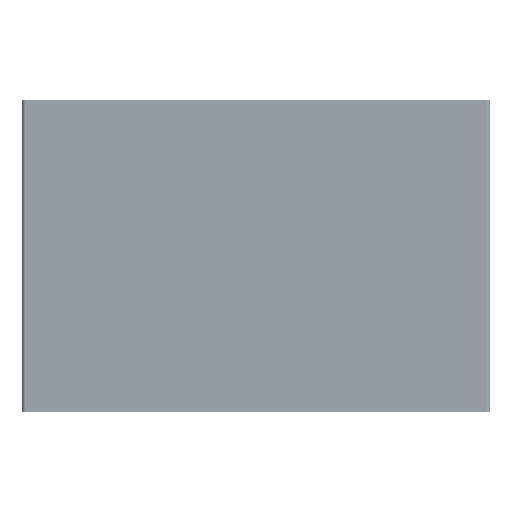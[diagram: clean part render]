
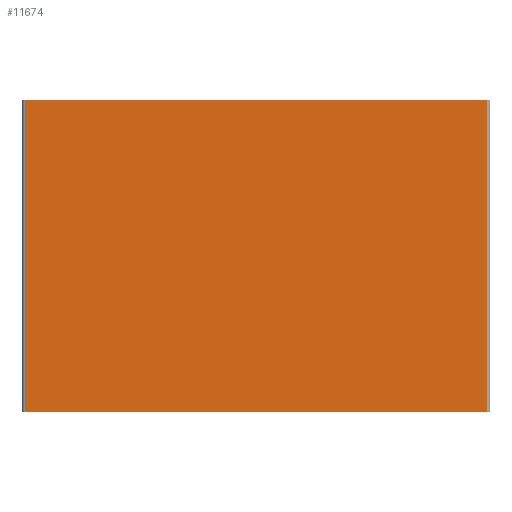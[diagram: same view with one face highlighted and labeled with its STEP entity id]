
A CAD part, left-side view. The second image highlights one B-rep face of the part: STEP entity #11674.
In plain terms, the highlighted planar face has unit normal (-1, 0, 0).
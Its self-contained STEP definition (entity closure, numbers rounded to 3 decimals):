
#2458 = EDGE_CURVE ( 'NONE', #2518, #2653, #23749, .T. ) ;
#2518 = VERTEX_POINT ( 'NONE', #23853 ) ;
#2653 = VERTEX_POINT ( 'NONE', #24204 ) ;
#4714 = DIRECTION ( 'NONE',  ( 0., 1., 0. ) ) ;
#4715 = VECTOR ( 'NONE', #4714, 1000. ) ;
#4717 = CARTESIAN_POINT ( 'NONE',  ( 152.505, 142.478, 0. ) ) ;
#4719 = LINE ( 'NONE', #4717, #4715 ) ;
#4722 = DIRECTION ( 'NONE',  ( 0., 0., 1. ) ) ;
#4723 = DIRECTION ( 'NONE',  ( -1., 0., 0. ) ) ;
#4725 = CARTESIAN_POINT ( 'NONE',  ( 152.505, 142.478, 50. ) ) ;
#4727 = AXIS2_PLACEMENT_3D ( 'NONE', #4725, #4723, #4722 ) ;
#4729 = PLANE ( 'NONE',  #4727 ) ;
#4733 = FACE_OUTER_BOUND ( 'NONE', #11678, .T. ) ;
#4847 = DIRECTION ( 'NONE',  ( 0., 1., 0. ) ) ;
#4849 = VECTOR ( 'NONE', #4847, 1000. ) ;
#4851 = CARTESIAN_POINT ( 'NONE',  ( 152.505, 142.478, 50. ) ) ;
#4853 = LINE ( 'NONE', #4851, #4849 ) ;
#4926 = CARTESIAN_POINT ( 'NONE',  ( 152.505, 216.478, 50. ) ) ;
#4929 = DIRECTION ( 'NONE',  ( 0., 0., -1. ) ) ;
#4930 = VECTOR ( 'NONE', #4929, 1000. ) ;
#4932 = CARTESIAN_POINT ( 'NONE',  ( 152.505, 216.478, 50. ) ) ;
#4934 = LINE ( 'NONE', #4932, #4930 ) ;
#4937 = CARTESIAN_POINT ( 'NONE',  ( 152.505, 216.478, 0. ) ) ;
#11674 = ADVANCED_FACE ( 'NONE', ( #4733 ), #4729, .T. ) ;
#11678 = EDGE_LOOP ( 'NONE', ( #11680, #11781, #11783, #11786 ) ) ;
#11680 = ORIENTED_EDGE ( 'NONE', *, *, #11681, .F. ) ;
#11681 = EDGE_CURVE ( 'NONE', #2653, #11810, #4719, .T. ) ;
#11781 = ORIENTED_EDGE ( 'NONE', *, *, #2458, .F. ) ;
#11783 = ORIENTED_EDGE ( 'NONE', *, *, #11784, .T. ) ;
#11784 = EDGE_CURVE ( 'NONE', #2518, #11817, #4853, .T. ) ;
#11786 = ORIENTED_EDGE ( 'NONE', *, *, #11814, .T. ) ;
#11810 = VERTEX_POINT ( 'NONE', #4937 ) ;
#11814 = EDGE_CURVE ( 'NONE', #11817, #11810, #4934, .T. ) ;
#11817 = VERTEX_POINT ( 'NONE', #4926 ) ;
#23743 = DIRECTION ( 'NONE',  ( 0., 0., -1. ) ) ;
#23745 = VECTOR ( 'NONE', #23743, 1000. ) ;
#23747 = CARTESIAN_POINT ( 'NONE',  ( 152.505, 142.478, 50. ) ) ;
#23749 = LINE ( 'NONE', #23747, #23745 ) ;
#23853 = CARTESIAN_POINT ( 'NONE',  ( 152.505, 142.478, 50. ) ) ;
#24204 = CARTESIAN_POINT ( 'NONE',  ( 152.505, 142.478, 0. ) ) ;
